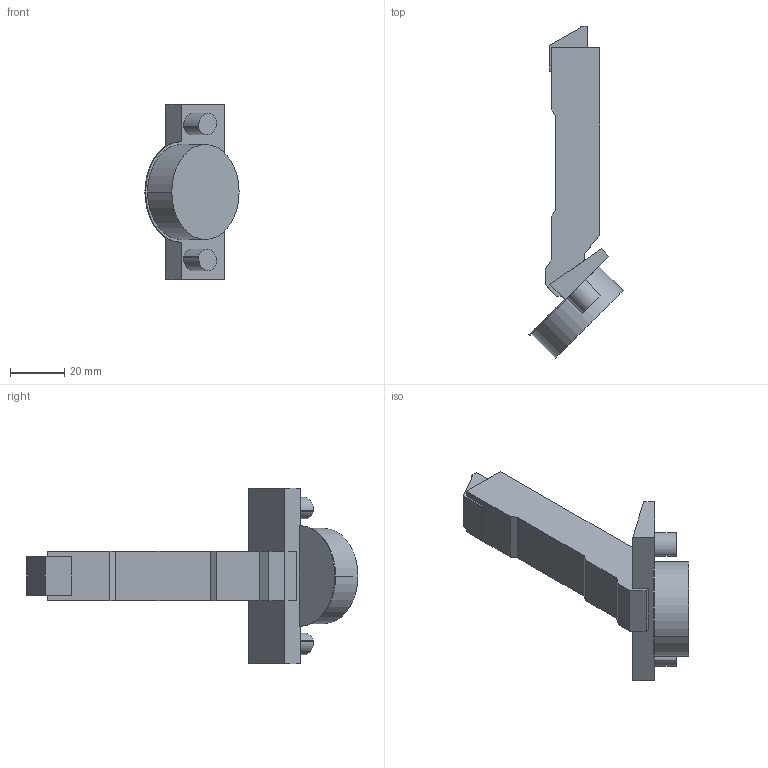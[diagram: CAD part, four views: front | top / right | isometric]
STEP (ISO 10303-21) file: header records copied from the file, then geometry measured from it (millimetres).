
FILE_DESCRIPTION (( 'STEP AP214' ), '1' );
FILE_NAME ('Scharnier TS Impresso 120°_-45° HS_BB, aufliegend - Neu -.step', '2019-09-17T09:44:59', ( '' ), ( '' ), 'SwSTEP 2.0', 'SolidWorks 2019', '' );
FILE_SCHEMA (( 'AUTOMOTIVE_DESIGN' ));
Length unit declared in the file: millimetre
Products named in the file (1): Scharnier TS Impresso 120°_-45° HS_BB, aufliegend - Neu -
Bounding box: 34.65 x 122.12 x 64.5 mm (x, y, z)
Volume: 48163.5 mm3; surface area: 13232.3 mm2
Topology: 1 solids, 1 shells, 53 faces, 135 edges, 90 vertices
Faces by surface type: plane 38, cylinder 15
Entity records: 1633 total; most frequent: CARTESIAN_POINT 279, DIRECTION 273, ORIENTED_EDGE 270, EDGE_CURVE 135, VECTOR 105, LINE 105, VERTEX_POINT 90, AXIS2_PLACEMENT_3D 84
